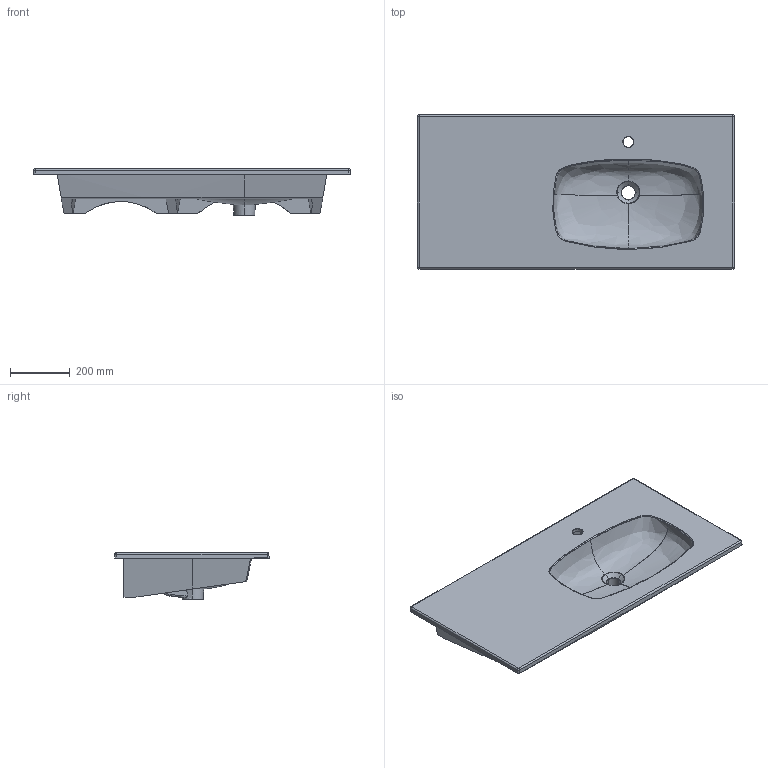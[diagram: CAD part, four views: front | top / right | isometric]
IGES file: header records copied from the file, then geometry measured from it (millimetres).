
Start section: START RECORD GO HERE.
Global section: file name: 3D ELITE 106 vasca dx.igs; native system: DASSAULT SYSTEMES CATIA V5 R19 - www.3ds.com; preprocessor: CATIA Version 5 Release 19 SP 5 ; author: Luca; organization: DESKTOP-V7SON24; date: 20190616.110609; units: millimetre
Bounding box: 1061.26 x 516.65 x 156.5 mm (x, y, z)
Surface area: 1736207.4 mm2 (no closed solid volume)
Topology: 0 solids, 0 shells, 134 faces, 674 edges, 664 vertices
Faces by surface type: bspline 76, revolution 29, plane 25, extrusion 4
